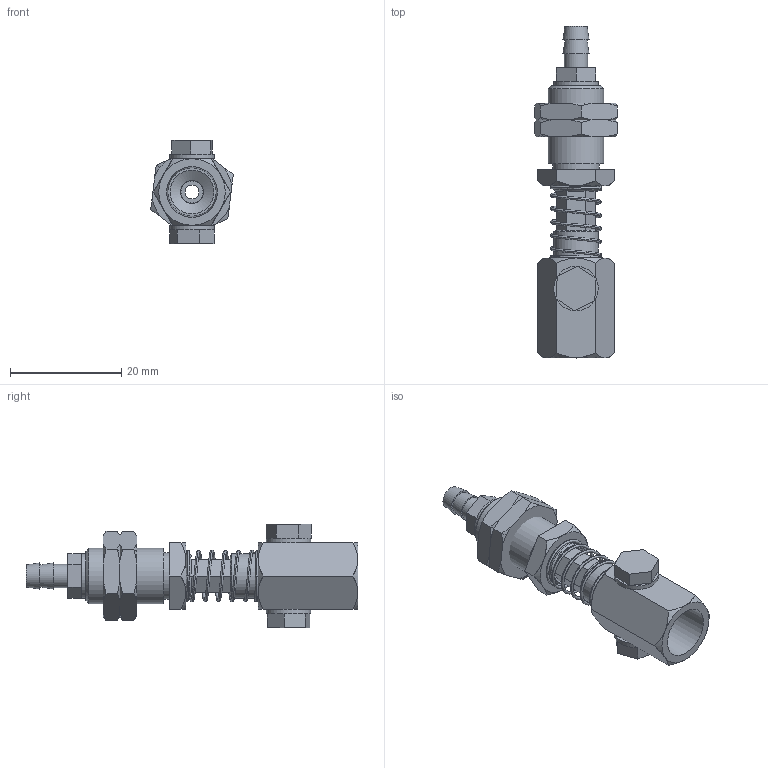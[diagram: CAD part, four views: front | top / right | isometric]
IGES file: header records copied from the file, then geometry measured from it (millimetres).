
Start section: SolidWorks IGES file using analytic representation for surfaces
Global section: file name: C:\Users\STAR079\Desktop\211049\ネット記載用\211049.IGS; native system: SolidWorks 2013; preprocessor: SolidWorks 2013; author: STAR079; date: 140905.133508; units: millimetre
Bounding box: 14.87 x 59.8 x 18.6 mm (x, y, z)
Surface area: 6144.5 mm2 (no closed solid volume)
Topology: 0 solids, 0 shells, 241 faces, 1273 edges, 1208 vertices
Faces by surface type: bspline 138, revolution 103
